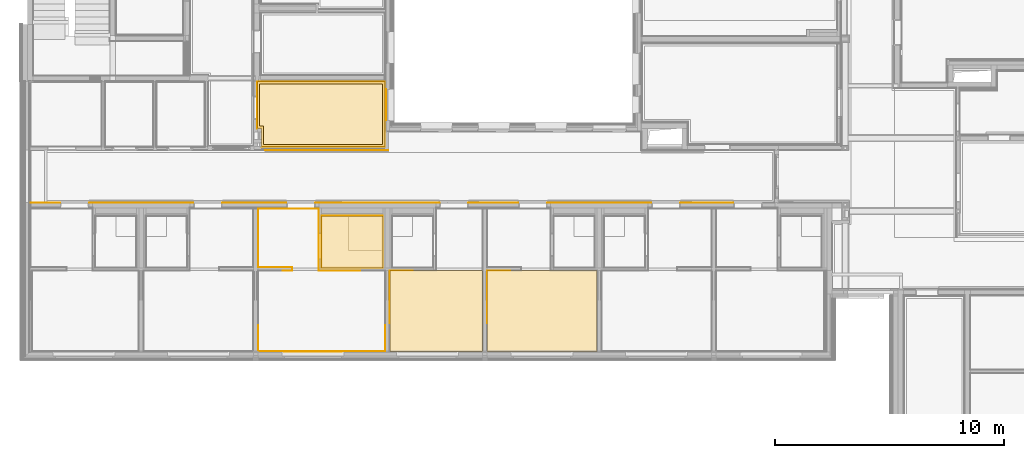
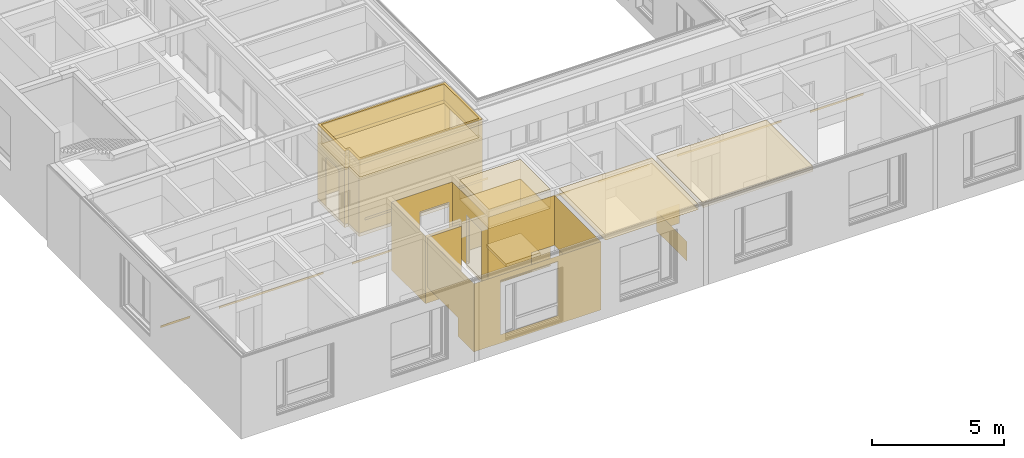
# One storey, part 155 of 222: 30 coverings.
"""IFC4 building model written with IfcOpenShell, lengths in metres."""

from ifc_helpers import new_model, entity, si_unit, converted_unit, derived_unit, frame, frame_2d, origin, origin_with_axes, place, context, subcontext, project, spatial, polyline, rectangle, outline, extrude, material, layer, layer_set, layer_usage, element, save


model = new_model("IFC4")

# Units and contexts
model_context = context("Model", 3, precision=1e-05, world=origin())
body_context = subcontext(model_context, "Body", "Model", "MODEL_VIEW")
ifc_project = project(units=[si_unit("LENGTHUNIT", "METRE"), si_unit("AREAUNIT", "SQUARE_METRE"), si_unit("VOLUMEUNIT", "CUBIC_METRE"), si_unit("MASSUNIT", "GRAM", prefix="KILO"), converted_unit("PLANEANGLEUNIT", "DEGREE", entity("IfcPlaneAngleMeasure", 0.0174532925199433), si_unit("PLANEANGLEUNIT", "RADIAN"), dimensions=[0, 0, 0, 0, 0, 0, 0]), derived_unit("THERMALTRANSMITTANCEUNIT", [(si_unit("POWERUNIT", "WATT"), 1), (si_unit("THERMODYNAMICTEMPERATUREUNIT", "KELVIN"), -1), (si_unit("LENGTHUNIT", "METRE"), -2)]), derived_unit("VOLUMETRICFLOWRATEUNIT", [(si_unit("LENGTHUNIT", "METRE"), 3), (converted_unit("TIMEUNIT", "hour", entity("IfcTimeMeasure", 3600.0), si_unit("TIMEUNIT", "SECOND"), dimensions=[0, 0, 1, 0, 0, 0, 0]), -1), (si_unit("LENGTHUNIT", "METRE"), -1)])], contexts=[model_context])

# Site, building, storey, space
site_placement = place(None, origin())
site = spatial("IfcSite", under=ifc_project, at=site_placement, Name="Psychiatrie Neubau Wunstorf", CompositionType="ELEMENT")
building_placement = place(site_placement, origin())
building = spatial("IfcBuilding", under=site, at=building_placement, Name="Neubau H2 Stationsgebäude", CompositionType="ELEMENT")
storey_placement = place(building_placement, frame((0.0, 0.0, 3.6)))
storey = spatial("IfcBuildingStorey", under=building, at=storey_placement, Name="H2 Ebene +1", CompositionType="ELEMENT", Elevation=3.6)
space_1_placement = place(storey_placement, frame((0.168999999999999, 4.33074963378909, 0.0)))
space_1 = spatial("IfcSpace", under=storey, at=space_1_placement, Name="WUN-H2-E01-073", CompositionType="ELEMENT")

# Coverings
ifc_material_1 = material(Name="97")
ifc_layer_1 = layer(ifc_material_1, 0.001)
ifc_layer_set_1 = layer_set([ifc_layer_1])
ifc_layer_usage_1 = layer_usage(ifc_layer_set_1, "AXIS3", "POSITIVE", 0.0)
covering_1_placement = place(space_1_placement, frame((10.2410000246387, 2.29425026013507, 0.8)))
element("IfcCovering", 1, at=covering_1_placement, inside=space_1, material=ifc_layer_usage_1, Name="Handlauf", PredefinedType="CLADDING", context=body_context, shape_type="SweptSolid", body=[
    extrude(rectangle(XDim=0.1, YDim=5.37899997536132, at=frame_2d((2.68949998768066, 0.05), x_axis=(0.0, 1.0))), frame((5.37899997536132, 0.0, 0.1), z_axis=(-1.69082488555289e-16, -1.0, 0.0), x_axis=(-1.0, 1.69082488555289e-16, 0.0)), (0.0, 0.0, 1.0), 0.001),
])
ifc_material_2 = material(Name="97")
ifc_layer_2 = layer(ifc_material_2, 0.001)
ifc_layer_set_2 = layer_set([ifc_layer_2])
ifc_layer_usage_2 = layer_usage(ifc_layer_set_2, "AXIS3", "POSITIVE", 0.0)
covering_2_placement = place(space_1_placement, frame((0.000999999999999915, 0.0, 0.8)))
element("IfcCovering", 2, at=covering_2_placement, inside=space_1, material=ifc_layer_usage_2, Name="Handlauf", PredefinedType="CLADDING", context=body_context, shape_type="SweptSolid", body=[
    extrude(rectangle(XDim=0.1, YDim=4.55, at=frame_2d((2.275, 0.05), x_axis=(0.0, 1.0))), frame((2.555, 0.0, 0.1), z_axis=(9.99444727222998e-16, 1.0, -1.81797936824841e-30), x_axis=(1.0, -9.99444727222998e-16, 0.0)), (0.0, 0.0, 1.0), 0.001),
    extrude(rectangle(XDim=0.1, YDim=1.295, at=frame_2d((-0.647500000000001, -0.05), x_axis=(2.27373675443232e-15, -1.0))), frame((1.295, 0.0, 0.0), z_axis=(1.40462502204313e-15, 1.0, -2.39531065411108e-30), x_axis=(1.0, -1.40462502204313e-15, 0.0)), (0.0, 0.0, 1.0), 0.001),
    extrude(rectangle(XDim=0.1, YDim=2.805, at=frame_2d((1.4025, 0.05), x_axis=(0.0, 1.0))), frame((8.365, 0.0, 0.1), z_axis=(9.72721606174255e-16, 1.0, 0.0), x_axis=(1.0, -9.72721606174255e-16, 0.0)), (0.0, 0.0, 1.0), 0.001),
    extrude(rectangle(XDim=0.100000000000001, YDim=5.425, at=frame_2d((2.7125, 0.0500000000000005), x_axis=(0.0, 1.0))), frame((12.43, 0.0, 0.100000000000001), z_axis=(1.08971715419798e-15, 1.0, -4.54747350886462e-15), x_axis=(1.0, -1.08971715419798e-15, 0.0)), (0.0, 0.0, 1.0), 0.001),
    extrude(rectangle(XDim=0.1, YDim=4.54999999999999, at=frame_2d((2.275, 0.05), x_axis=(0.0, 1.0))), frame((22.555, 0.0, 0.1), z_axis=(9.99444727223e-16, 1.0, 0.0), x_axis=(1.0, -9.99444727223e-16, 0.0)), (0.0, 0.0, 1.0), 0.001),
    extrude(rectangle(XDim=0.1, YDim=2.18, at=frame_2d((1.09, 0.05), x_axis=(0.0, 1.0))), frame((19.115, 0.0, 0.1), z_axis=(1.25159821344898e-15, 1.0, 0.0), x_axis=(1.0, -1.25159821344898e-15, 0.0)), (0.0, 0.0, 1.0), 0.001),
    extrude(rectangle(XDim=0.1, YDim=2.31999999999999, at=frame_2d((1.15999999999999, 0.05), x_axis=(0.0, 1.0))), frame((28.365, 0.0, 0.1), z_axis=(1.17607073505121e-15, 1.0, 0.0), x_axis=(1.0, -1.17607073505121e-15, 0.0)), (0.0, 0.0, 1.0), 0.001),
])

# Space
space_2_placement = place(storey_placement, frame((20.1, -2.16399999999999, 0.0)))
space_2 = spatial("IfcSpace", under=storey, at=space_2_placement, Name="WUN-H2-E01-021", CompositionType="ELEMENT")

# Coverings
ifc_material_3 = material(Name="84")
ifc_layer_3 = layer(ifc_material_3, 0.001)
ifc_layer_set_3 = layer_set([ifc_layer_3])
ifc_layer_usage_3 = layer_usage(ifc_layer_set_3, "AXIS3", "POSITIVE", 0.0)
covering_3_placement = place(space_2_placement, frame((0.0, 1.22274963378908, 0.1)))
element("IfcCovering", 3, at=covering_3_placement, inside=space_2, material=ifc_layer_usage_3, Name="Acrovyn", PredefinedType="CLADDING", context=body_context, shape_type="SweptSolid", body=[
    extrude(rectangle(XDim=1.0, YDim=0.9, at=frame_2d((0.5, -0.45), x_axis=(1.0, 0.0))), frame((1.0, 2.3, 0.0), z_axis=(0.0, -1.0, 0.0), x_axis=(-1.0, 0.0, 0.0)), (0.0, 0.0, 1.0), 0.001),
    extrude(rectangle(XDim=2.3, YDim=0.9, at=frame_2d((1.15, -0.45), x_axis=(1.0, 0.0))), frame((0.0, 2.3, 0.0), z_axis=(1.0, 0.0, 0.0), x_axis=(0.0, -1.0, 0.0)), (0.0, 0.0, 1.0), 0.001),
])
ifc_material_4 = material()
ifc_layer_4 = layer(ifc_material_4, 0.036)
ifc_layer_set_4 = layer_set([ifc_layer_4])
ifc_layer_usage_4 = layer_usage(ifc_layer_set_4, "AXIS3", "POSITIVE", 0.0)
covering_4_placement = place(space_2_placement, frame((0.0, 0.0, 3.55)))
element("IfcCovering", 4, at=covering_4_placement, inside=space_2, material=ifc_layer_usage_4, Name="Gipsfaserplatten 2-lagig (BSK)", PredefinedType="CEILING", context=body_context, shape_type="SweptSolid", body=[
    extrude(rectangle(XDim=3.5227496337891, YDim=4.8, at=frame_2d((-2.4, 1.76137481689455), x_axis=(0.0, 1.0))), frame((4.8, 3.5227496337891, 0.0), z_axis=(0.0, 0.0, -1.0), x_axis=(1.0, 0.0, 0.0)), (0.0, 0.0, 1.0), 0.036),
])
ifc_material_5 = material(Name="Installationshöhe")
ifc_layer_5 = layer(ifc_material_5, 0.114)
ifc_layer_set_5 = layer_set([ifc_layer_5])
ifc_layer_usage_5 = layer_usage(ifc_layer_set_5, "AXIS3", "POSITIVE", 0.0)
covering_5_placement = place(space_2_placement, frame((0.0, 0.0, 3.514)))
element("IfcCovering", 5, at=covering_5_placement, inside=space_2, material=ifc_layer_usage_5, Name="Gipsfaserplatten 2-lagig (BSK)", PredefinedType="CEILING", context=body_context, shape_type="SweptSolid", body=[
    extrude(rectangle(XDim=3.5227496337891, YDim=4.8, at=frame_2d((-2.4, 1.76137481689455), x_axis=(0.0, 1.0))), frame((4.8, 3.5227496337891, 0.0), z_axis=(0.0, 0.0, -1.0), x_axis=(1.0, 0.0, 0.0)), (0.0, 0.0, 1.0), 0.114),
])
ifc_material_6 = material(Name="A1")
ifc_layer_6 = layer(ifc_material_6, 0.1)
ifc_layer_set_6 = layer_set([ifc_layer_6])
ifc_layer_usage_6 = layer_usage(ifc_layer_set_6, "AXIS3", "POSITIVE", 0.0)
covering_6_placement = place(space_2_placement, frame((0.0, 0.0, 3.4)))
element("IfcCovering", 6, at=covering_6_placement, inside=space_2, material=ifc_layer_usage_6, Name="Gipsfaserplatten 2-lagig (BSK)", PredefinedType="CEILING", context=body_context, shape_type="SweptSolid", body=[
    extrude(rectangle(XDim=3.5227496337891, YDim=4.8, at=frame_2d((-2.4, 1.76137481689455), x_axis=(0.0, 1.0))), frame((4.8, 3.5227496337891, 0.0), z_axis=(0.0, 0.0, -1.0), x_axis=(1.0, 0.0, 0.0)), (0.0, 0.0, 1.0), 0.1),
])

# Space
space_3_placement = place(storey_placement, frame((15.85, -2.16399999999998, 0.0)))
space_3 = spatial("IfcSpace", under=storey, at=space_3_placement, Name="WUN-H2-E01-022", CompositionType="ELEMENT")

# Coverings
ifc_material_7 = material(Name="84")
ifc_layer_7 = layer(ifc_material_7, 0.001)
ifc_layer_set_7 = layer_set([ifc_layer_7])
ifc_layer_usage_7 = layer_usage(ifc_layer_set_7, "AXIS3", "POSITIVE", 0.0)
covering_7_placement = place(space_3_placement, frame((0.0, 1.22274963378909, 0.1)))
element("IfcCovering", 7, at=covering_7_placement, inside=space_3, material=ifc_layer_usage_7, Name="Acrovyn", PredefinedType="CLADDING", context=body_context, shape_type="SweptSolid", body=[
    extrude(rectangle(XDim=1.0, YDim=0.9, at=frame_2d((0.5, -0.45), x_axis=(1.0, 0.0))), frame((1.0, 2.3, 0.0), z_axis=(0.0, -1.0, 0.0), x_axis=(-1.0, 0.0, 0.0)), (0.0, 0.0, 1.0), 0.001),
    extrude(rectangle(XDim=2.3, YDim=0.9, at=frame_2d((1.15, -0.45), x_axis=(1.0, 0.0))), frame((0.0, 2.3, 0.0), z_axis=(1.0, 0.0, 0.0), x_axis=(0.0, -1.0, 0.0)), (0.0, 0.0, 1.0), 0.001),
])
ifc_material_8 = material()
ifc_layer_8 = layer(ifc_material_8, 0.036)
ifc_layer_set_8 = layer_set([ifc_layer_8])
ifc_layer_usage_8 = layer_usage(ifc_layer_set_8, "AXIS3", "POSITIVE", 0.0)
covering_8_placement = place(space_3_placement, frame((0.0, 0.0, 3.55)))
element("IfcCovering", 8, at=covering_8_placement, inside=space_3, material=ifc_layer_usage_8, Name="Gipsfaserplatten 2-lagig (BSK)", PredefinedType="CEILING", context=body_context, shape_type="SweptSolid", body=[
    extrude(rectangle(XDim=3.52274963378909, YDim=4.04999999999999, at=frame_2d((2.025, -1.76137481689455), x_axis=(0.0, -1.0))), frame((0.0, 0.0, 0.0), z_axis=(0.0, 0.0, -1.0), x_axis=(1.0, 0.0, 0.0)), (0.0, 0.0, 1.0), 0.036),
])
ifc_material_9 = material(Name="Installationshöhe")
ifc_layer_9 = layer(ifc_material_9, 0.114)
ifc_layer_set_9 = layer_set([ifc_layer_9])
ifc_layer_usage_9 = layer_usage(ifc_layer_set_9, "AXIS3", "POSITIVE", 0.0)
covering_9_placement = place(space_3_placement, frame((0.0, 0.0, 3.514)))
element("IfcCovering", 9, at=covering_9_placement, inside=space_3, material=ifc_layer_usage_9, Name="Gipsfaserplatten 2-lagig (BSK)", PredefinedType="CEILING", context=body_context, shape_type="SweptSolid", body=[
    extrude(rectangle(XDim=3.52274963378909, YDim=4.04999999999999, at=frame_2d((2.025, -1.76137481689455), x_axis=(0.0, -1.0))), frame((0.0, 0.0, 0.0), z_axis=(0.0, 0.0, -1.0), x_axis=(1.0, 0.0, 0.0)), (0.0, 0.0, 1.0), 0.114),
])
ifc_material_10 = material(Name="A1")
ifc_layer_10 = layer(ifc_material_10, 0.1)
ifc_layer_set_10 = layer_set([ifc_layer_10])
ifc_layer_usage_10 = layer_usage(ifc_layer_set_10, "AXIS3", "POSITIVE", 0.0)
covering_10_placement = place(space_3_placement, frame((0.0, 0.0, 3.4)))
element("IfcCovering", 10, at=covering_10_placement, inside=space_3, material=ifc_layer_usage_10, Name="Gipsfaserplatten 2-lagig (BSK)", PredefinedType="CEILING", context=body_context, shape_type="SweptSolid", body=[
    extrude(rectangle(XDim=3.52274963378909, YDim=4.04999999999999, at=frame_2d((2.025, -1.76137481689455), x_axis=(0.0, -1.0))), frame((0.0, 0.0, 0.0), z_axis=(0.0, 0.0, -1.0), x_axis=(1.0, 0.0, 0.0)), (0.0, 0.0, 1.0), 0.1),
])
ifc_material_11 = material(Name="D1")
ifc_layer_11 = layer(ifc_material_11, 0.001)
ifc_layer_set_11 = layer_set([ifc_layer_11])
ifc_layer_usage_11 = layer_usage(ifc_layer_set_11, "AXIS3", "POSITIVE", 0.0)
covering_11_placement = place(space_3_placement, frame((0.0, 0.0, 3.3)))
element("IfcCovering", 11, at=covering_11_placement, inside=space_3, material=ifc_layer_usage_11, Name="Gipsfaserplatten 2-lagig (BSK)", PredefinedType="CEILING", context=body_context, shape_type="SweptSolid", body=[
    extrude(rectangle(XDim=3.52274963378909, YDim=4.04999999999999, at=frame_2d((2.025, -1.76137481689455), x_axis=(0.0, -1.0))), frame((0.0, 0.0, 0.0), z_axis=(0.0, 0.0, -1.0), x_axis=(1.0, 0.0, 0.0)), (0.0, 0.0, 1.0), 0.001),
])

# Space
space_4_placement = place(storey_placement, frame((10.1, -2.16399999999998, 0.0)))
space_4 = spatial("IfcSpace", under=storey, at=space_4_placement, Name="WUN-H2-E01-023", CompositionType="ELEMENT")

# Covering
ifc_material_12 = material(Name="49")
ifc_layer_12 = layer(ifc_material_12, 0.001)
ifc_layer_set_12 = layer_set([ifc_layer_12])
ifc_layer_usage_12 = layer_usage(ifc_layer_set_12, "AXIS3", "POSITIVE", 0.0)
covering_12_placement = place(space_4_placement, frame((0.0, -0.0249999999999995, 0.15)))
element("IfcCovering", 12, at=covering_12_placement, inside=space_4, material=ifc_layer_usage_12, PredefinedType="CLADDING", context=body_context, shape_type="SweptSolid", body=[
    extrude(rectangle(XDim=1.50000000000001, YDim=3.15, at=frame_2d((0.750000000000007, -1.575), x_axis=(1.0, 0.0))), frame((0.0, 3.69774963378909, 0.0), z_axis=(0.0, 1.0, 0.0), x_axis=(1.0, 0.0, 0.0)), (0.0, 0.0, 1.0), 0.001),
    extrude(rectangle(XDim=0.15, YDim=3.15, at=frame_2d((0.075, -1.575), x_axis=(1.0, 0.0))), frame((1.50000000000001, 3.69774963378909, 0.0), z_axis=(1.0, 0.0, 0.0), x_axis=(0.0, -1.0, 0.0)), (0.0, 0.0, 1.0), 0.001),
    extrude(outline(polyline([(0.0, 3.15), (0.500000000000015, 3.15), (0.500000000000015, 2.3), (1.50000000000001, 2.3), (1.50000000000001, 0.0), (0.0, 0.0), (0.0, 3.15)])), frame((1.50000000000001, 3.54774963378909, 3.15), z_axis=(0.0, -1.0, 0.0), x_axis=(-1.0, 0.0, 0.0)), (0.0, 0.0, 1.0), 0.001),
    extrude(outline(polyline([(2.3, 3.15), (3.52274963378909, 3.15), (3.52274963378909, 0.0), (0.0, 0.0), (0.0, 2.3), (2.3, 2.3), (2.3, 3.15)])), frame((0.0, 3.54774963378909, 3.15), z_axis=(1.0, 0.0, 0.0), x_axis=(0.0, -1.0, 0.0)), (0.0, 0.0, 1.0), 0.001),
    extrude(outline(polyline([(0.0, 3.15), (5.55, 3.15), (5.55, 0.0), (0.0, 0.0), (0.0, 3.15)]), holes=[polyline([(3.65, 2.75), (1.14999999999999, 2.75), (1.14999999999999, 0.25), (3.65, 0.25), (3.65, 2.75)])]), frame((0.0, 0.0249999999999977, 3.15), z_axis=(4.79034394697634e-17, 1.0, 0.0), x_axis=(1.0, -4.79034394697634e-17, 0.0)), (0.0, 0.0, 1.0), 0.001),
    extrude(outline(polyline([(0.0, 3.15), (1.2227496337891, 3.15), (1.2227496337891, 2.3), (3.52274963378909, 2.3), (3.52274963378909, 0.0), (0.0, 0.0), (0.0, 3.15)])), frame((5.55, 0.0249999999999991, 3.15), z_axis=(-1.0, -1.23552388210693e-15, -1.21832263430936e-15), x_axis=(-1.23552388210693e-15, 1.0, 0.0)), (0.0, 0.0, 1.0), 0.001),
    extrude(outline(polyline([(0.999999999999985, 3.15), (2.9, 3.15), (2.9, 0.0), (0.0, 0.0), (0.0, 2.3), (0.999999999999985, 2.3), (0.999999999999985, 3.15)])), frame((5.55, 3.54774963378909, 3.15), z_axis=(4.89875691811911e-16, -1.0, -5.76324343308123e-16), x_axis=(-1.0, -4.89875691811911e-16, 0.0)), (0.0, 0.0, 1.0), 0.001),
    extrude(outline(polyline([(0.0, 3.15), (0.499999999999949, 3.15), (0.499999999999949, 0.89), (1.63499999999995, 0.89), (1.63499999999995, 3.15), (2.69999999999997, 3.15), (2.69999999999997, 0.0), (0.0, 0.0), (0.0, 3.15)])), frame((2.65, 3.54774963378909, 3.15), z_axis=(-1.0, 0.0, 0.0), x_axis=(0.0, 1.0, 0.0)), (0.0, 0.0, 1.0), 0.001),
    extrude(outline(polyline([(0.0, 3.15), (0.15, 3.15), (0.15, 0.89), (1.41, 0.89), (1.41, 3.15), (2.65, 3.15), (2.65, 0.0), (0.0, 0.0), (0.0, 3.15)])), frame((2.65, 6.24774963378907, 3.15), z_axis=(-1.62427735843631e-16, -1.0, 3.92413910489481e-16), x_axis=(-1.0, 1.62427735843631e-16, 0.0)), (0.0, 0.0, 1.0), 0.001),
    extrude(rectangle(XDim=2.54999999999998, YDim=3.15, at=frame_2d((1.27499999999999, -1.575), x_axis=(1.0, 0.0))), frame((0.0, 6.24774963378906, 0.0), z_axis=(1.0, 0.0, 0.0), x_axis=(0.0, -1.0, 0.0)), (0.0, 0.0, 1.0), 0.001),
    extrude(rectangle(XDim=0.0249999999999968, YDim=2.5, at=frame_2d((0.0124999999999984, -1.25), x_axis=(1.0, 0.0))), frame((1.14999999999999, 0.0249999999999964, 0.4), z_axis=(1.0, 0.0, 0.0), x_axis=(0.0, -1.0, 0.0)), (0.0, 0.0, 1.0), 0.001),
    extrude(rectangle(XDim=2.5, YDim=0.0249999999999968, at=frame_2d((-1.25, 0.0124999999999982), x_axis=(-1.0, -1.81898940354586e-16))), frame((3.65, 0.0249999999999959, 2.9), z_axis=(0.0, 0.0, -1.0), x_axis=(1.0, 0.0, 0.0)), (0.0, 0.0, 1.0), 0.001),
    extrude(rectangle(XDim=2.5, YDim=0.0249999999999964, at=frame_2d((-0.0124999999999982, -1.25), x_axis=(0.0, -1.0))), frame((3.65, 0.0249999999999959, 0.4), z_axis=(-1.0, 0.0, 0.0), x_axis=(0.0, 1.0, 0.0)), (0.0, 0.0, 1.0), 0.001),
])

# Space
space_5_placement = place(storey_placement, frame((12.875, 1.48374963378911, 0.0)))
space_5 = spatial("IfcSpace", under=storey, at=space_5_placement, Name="WUN-H2-E01-023a", CompositionType="ELEMENT")

# Coverings
ifc_material_13 = material(Name="Fl2")
ifc_layer_13 = layer(ifc_material_13, 0.15)
ifc_layer_set_13 = layer_set([ifc_layer_13])
ifc_layer_usage_13 = layer_usage(ifc_layer_set_13, "AXIS3", "POSITIVE", 0.0)
covering_13_placement = place(space_5_placement, frame((1.175, 0.764999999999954, 0.0)))
element("IfcCovering", 13, at=covering_13_placement, inside=space_5, material=ifc_layer_usage_13, Name="Fliesen Mosaik", PredefinedType="FLOORING", context=body_context, shape_type="SweptSolid", body=[
    extrude(rectangle(XDim=1.5, YDim=1.5, at=frame_2d((-0.75, -0.75), x_axis=(-1.0, 0.0))), frame((1.5, 1.5, 0.0), z_axis=(0.0, 0.0, 1.0), x_axis=(1.0, 0.0, 0.0)), (0.0, 0.0, 1.0), 0.15),
])
ifc_material_14 = material(Name="Fl1")
ifc_layer_14 = layer(ifc_material_14, 0.15)
ifc_layer_set_14 = layer_set([ifc_layer_14])
ifc_layer_usage_14 = layer_usage(ifc_layer_set_14, "AXIS3", "POSITIVE", 0.0)
covering_14_placement = place(space_5_placement, frame((-0.125, 0.0, 0.0)))
element("IfcCovering", 14, at=covering_14_placement, inside=space_5, material=ifc_layer_usage_14, Name="Fliesen", PredefinedType="FLOORING", context=body_context, shape_type="SweptSolid", body=[
    extrude(rectangle(XDim=0.125, YDim=1.135, at=frame_2d((0.0625, 0.5675), x_axis=(1.0, 0.0))), frame((0.0, 0.374999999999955, 0.0), z_axis=(0.0, 0.0, 1.0), x_axis=(1.0, 0.0, 0.0)), (0.0, 0.0, 1.0), 0.15),
    extrude(outline(polyline([(0.0, 0.0), (2.675, 0.0), (2.675, 0.764999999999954), (1.175, 0.764999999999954), (1.175, 2.26499999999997), (0.0, 2.26499999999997), (0.0, 0.0)])), frame((0.125, 0.0, 0.0), z_axis=(0.0, 0.0, 1.0), x_axis=(1.0, 0.0, 0.0)), (0.0, 0.0, 1.0), 0.15),
])
ifc_material_15 = material()
ifc_layer_15 = layer(ifc_material_15, 0.036)
ifc_layer_set_15 = layer_set([ifc_layer_15])
ifc_layer_usage_15 = layer_usage(ifc_layer_set_15, "AXIS3", "POSITIVE", 0.0)
covering_15_placement = place(space_5_placement, frame((0.0, 0.0, 3.55)))
element("IfcCovering", 15, at=covering_15_placement, inside=space_5, material=ifc_layer_usage_15, Name="Gipsfaserplatten 2-lagig (BSK)", PredefinedType="CEILING", context=body_context, shape_type="SweptSolid", body=[
    extrude(rectangle(XDim=2.26499999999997, YDim=2.675, at=frame_2d((-1.3375, 1.13249999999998), x_axis=(0.0, 1.0))), frame((2.675, 2.26499999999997, 0.0), z_axis=(0.0, 0.0, -1.0), x_axis=(1.0, 0.0, 0.0)), (0.0, 0.0, 1.0), 0.036),
])
ifc_material_16 = material(Name="Installationshöhe")
ifc_layer_16 = layer(ifc_material_16, 0.764)
ifc_layer_set_16 = layer_set([ifc_layer_16])
ifc_layer_usage_16 = layer_usage(ifc_layer_set_16, "AXIS3", "POSITIVE", 0.0)
covering_16_placement = place(space_5_placement, frame((0.0, 0.0, 3.514)))
element("IfcCovering", 16, at=covering_16_placement, inside=space_5, material=ifc_layer_usage_16, Name="Gipsfaserplatten 2-lagig (BSK)", PredefinedType="CEILING", context=body_context, shape_type="SweptSolid", body=[
    extrude(rectangle(XDim=2.26499999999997, YDim=2.675, at=frame_2d((-1.3375, 1.13249999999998), x_axis=(0.0, 1.0))), frame((2.675, 2.26499999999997, 0.0), z_axis=(0.0, 0.0, -1.0), x_axis=(1.0, 0.0, 0.0)), (0.0, 0.0, 1.0), 0.764),
])
ifc_material_17 = material(Name="B")
ifc_layer_17 = layer(ifc_material_17, 0.1)
ifc_layer_set_17 = layer_set([ifc_layer_17])
ifc_layer_usage_17 = layer_usage(ifc_layer_set_17, "AXIS3", "POSITIVE", 0.0)
covering_17_placement = place(space_5_placement, frame((0.0, 0.0, 2.75)))
element("IfcCovering", 17, at=covering_17_placement, inside=space_5, material=ifc_layer_usage_17, Name="Gipskarton, imprägniert", PredefinedType="CEILING", context=body_context, shape_type="SweptSolid", body=[
    extrude(rectangle(XDim=2.26499999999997, YDim=2.675, at=frame_2d((-1.3375, 1.13249999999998), x_axis=(0.0, 1.0))), frame((2.675, 2.26499999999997, 0.0), z_axis=(0.0, 0.0, -1.0), x_axis=(1.0, 0.0, 0.0)), (0.0, 0.0, 1.0), 0.1),
])
ifc_material_18 = material(Name="D1")
ifc_layer_18 = layer(ifc_material_18, 0.001)
ifc_layer_set_18 = layer_set([ifc_layer_18])
ifc_layer_usage_18 = layer_usage(ifc_layer_set_18, "AXIS3", "POSITIVE", 0.0)
covering_18_placement = place(space_5_placement, frame((0.0, 0.0, 2.65)))
element("IfcCovering", 18, at=covering_18_placement, inside=space_5, material=ifc_layer_usage_18, Name="Gipsfaserplatten 2-lagig (BSK)", PredefinedType="CEILING", context=body_context, shape_type="SweptSolid", body=[
    extrude(rectangle(XDim=2.26499999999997, YDim=2.675, at=frame_2d((-1.3375, 1.13249999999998), x_axis=(0.0, 1.0))), frame((2.675, 2.26499999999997, 0.0), z_axis=(0.0, 0.0, -1.0), x_axis=(1.0, 0.0, 0.0)), (0.0, 0.0, 1.0), 0.001),
])
ifc_material_19 = material(Name="50")
ifc_layer_19 = layer(ifc_material_19, 0.001)
ifc_layer_set_19 = layer_set([ifc_layer_19])
ifc_layer_usage_19 = layer_usage(ifc_layer_set_19, "AXIS3", "POSITIVE", 0.0)
covering_19_placement = place(space_5_placement, frame((0.0, 0.0, 0.15)))
element("IfcCovering", 19, at=covering_19_placement, inside=space_5, material=ifc_layer_usage_19, PredefinedType="CLADDING", context=body_context, shape_type="SweptSolid", body=[
    extrude(outline(polyline([(0.0, 2.5), (0.0149999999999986, 2.5), (0.0149999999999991, 0.24), (1.15, 0.24), (1.15, 2.5), (1.52499999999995, 2.5), (1.52499999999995, 0.0), (0.0, 0.0), (0.0, 2.5)])), frame((0.0, 1.52499999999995, 2.5), z_axis=(1.0, 0.0, 0.0), x_axis=(0.0, -1.0, 0.0)), (0.0, 0.0, 1.0), 0.001),
    extrude(rectangle(XDim=1.475, YDim=2.5, at=frame_2d((0.7375, -1.25), x_axis=(1.0, 0.0))), frame((0.0, 0.0, 0.0), z_axis=(0.0, 1.0, 0.0), x_axis=(1.0, 0.0, 0.0)), (0.0, 0.0, 1.0), 0.001),
])
ifc_material_20 = material(Name="68")
ifc_layer_20 = layer(ifc_material_20, 0.01)
ifc_layer_set_20 = layer_set([ifc_layer_20])
ifc_layer_usage_20 = layer_usage(ifc_layer_set_20, "AXIS3", "POSITIVE", 0.0)
covering_20_placement = place(space_5_placement, frame((0.0, 0.0, 0.15)))
element("IfcCovering", 20, at=covering_20_placement, inside=space_5, material=ifc_layer_usage_20, Name="a-sh Wandbelag", PredefinedType="CLADDING", context=body_context, shape_type="SweptSolid", body=[
    extrude(rectangle(XDim=1.2, YDim=2.5, at=frame_2d((0.6, -1.25), x_axis=(1.0, 0.0))), frame((1.475, 0.0, 0.0), z_axis=(0.0, 1.0, 0.0), x_axis=(1.0, 0.0, 0.0)), (0.0, 0.0, 1.0), 0.01),
    extrude(rectangle(XDim=2.675, YDim=2.5, at=frame_2d((1.3375, -1.25), x_axis=(1.0, 0.0))), frame((2.675, 2.26499999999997, 0.0), z_axis=(0.0, -1.0, 0.0), x_axis=(-1.0, 0.0, 0.0)), (0.0, 0.0, 1.0), 0.01),
    extrude(rectangle(XDim=0.740000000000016, YDim=2.5, at=frame_2d((0.370000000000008, -1.25), x_axis=(1.0, 0.0))), frame((0.0, 2.26499999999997, 0.0), z_axis=(1.0, 0.0, 0.0), x_axis=(0.0, -1.0, 0.0)), (0.0, 0.0, 1.0), 0.01),
    extrude(rectangle(XDim=2.26499999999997, YDim=2.5, at=frame_2d((1.13249999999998, -1.25), x_axis=(1.0, 0.0))), frame((2.675, 0.0, 0.0), z_axis=(-1.0, 0.0, 0.0), x_axis=(0.0, 1.0, 0.0)), (0.0, 0.0, 1.0), 0.01),
])

# Space
space_6_placement = place(storey_placement, frame((10.0675000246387, 6.77499989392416, 0.0)))
space_6 = spatial("IfcSpace", under=storey, at=space_6_placement, Name="WUN-H2-E01-037", CompositionType="ELEMENT")

# Coverings
ifc_material_21 = material()
ifc_layer_21 = layer(ifc_material_21, 0.036)
ifc_layer_set_21 = layer_set([ifc_layer_21])
ifc_layer_usage_21 = layer_usage(ifc_layer_set_21, "AXIS3", "POSITIVE", 0.0)
covering_21_placement = place(space_6_placement, frame((0.0, 0.0, 3.55)))
element("IfcCovering", 21, at=covering_21_placement, inside=space_6, material=ifc_layer_usage_21, Name="Gipsfaserplatten 2-lagig (BSK)", PredefinedType="CEILING", context=body_context, shape_type="SweptSolid", body=[
    extrude(outline(polyline([(0.175000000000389, 2.0455000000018), (0.0, 2.0455000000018), (0.0, 0.0), (5.57149997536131, 0.0), (5.57149997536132, 2.83549999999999), (0.175000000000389, 2.83549998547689), (0.175000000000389, 2.0455000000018)]), holes=[polyline([(0.275000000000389, 2.73549999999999), (5.47149997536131, 2.7355), (5.47149997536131, 0.100000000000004), (0.1, 0.1), (0.1, 1.9455000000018), (0.275000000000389, 1.9455000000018), (0.275000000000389, 2.73549999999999)])]), frame((0.0, 2.83549999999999, 0.0), z_axis=(0.0, 0.0, -1.0), x_axis=(1.0, 0.0, 0.0)), (0.0, 0.0, 1.0), 0.036),
])
ifc_material_22 = material(Name="Installationshöhe")
ifc_layer_22 = layer(ifc_material_22, 0.714)
ifc_layer_set_22 = layer_set([ifc_layer_22])
ifc_layer_usage_22 = layer_usage(ifc_layer_set_22, "AXIS3", "POSITIVE", 0.0)
covering_22_placement = place(space_6_placement, frame((0.0, 0.0, 3.514)))
element("IfcCovering", 22, at=covering_22_placement, inside=space_6, material=ifc_layer_usage_22, Name="Gipsfaserplatten 2-lagig (BSK)", PredefinedType="CEILING", context=body_context, shape_type="SweptSolid", body=[
    extrude(outline(polyline([(0.175000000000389, 2.0455000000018), (0.0, 2.0455000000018), (0.0, 0.0), (5.57149997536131, 0.0), (5.57149997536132, 2.83549999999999), (0.175000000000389, 2.83549998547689), (0.175000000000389, 2.0455000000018)]), holes=[polyline([(0.275000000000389, 2.73549999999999), (5.47149997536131, 2.7355), (5.47149997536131, 0.100000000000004), (0.1, 0.1), (0.1, 1.9455000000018), (0.275000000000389, 1.9455000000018), (0.275000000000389, 2.73549999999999)])]), frame((0.0, 2.83549999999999, 0.0), z_axis=(0.0, 0.0, -1.0), x_axis=(1.0, 0.0, 0.0)), (0.0, 0.0, 1.0), 0.714),
])
ifc_material_23 = material(Name="A1")
ifc_layer_23 = layer(ifc_material_23, 0.15)
ifc_layer_set_23 = layer_set([ifc_layer_23])
ifc_layer_usage_23 = layer_usage(ifc_layer_set_23, "AXIS3", "POSITIVE", 0.0)
covering_23_placement = place(space_6_placement, frame((0.0, 0.0, 2.8)))
element("IfcCovering", 23, at=covering_23_placement, inside=space_6, material=ifc_layer_usage_23, Name="Gipsfaserplatten 2-lagig (BSK)", PredefinedType="CEILING", context=body_context, shape_type="SweptSolid", body=[
    extrude(outline(polyline([(0.175000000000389, 2.0455000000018), (0.0, 2.0455000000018), (0.0, 0.0), (5.57149997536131, 0.0), (5.57149997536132, 2.83549999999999), (0.175000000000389, 2.83549998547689), (0.175000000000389, 2.0455000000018)]), holes=[polyline([(0.275000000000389, 2.73549999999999), (5.47149997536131, 2.7355), (5.47149997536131, 0.100000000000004), (0.1, 0.1), (0.1, 1.9455000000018), (0.275000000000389, 1.9455000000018), (0.275000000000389, 2.73549999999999)])]), frame((0.0, 2.83549999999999, 0.0), z_axis=(0.0, 0.0, -1.0), x_axis=(1.0, 0.0, 0.0)), (0.0, 0.0, 1.0), 0.15),
])
ifc_material_24 = material(Name="D1")
ifc_layer_24 = layer(ifc_material_24, 0.001)
ifc_layer_set_24 = layer_set([ifc_layer_24])
ifc_layer_usage_24 = layer_usage(ifc_layer_set_24, "AXIS3", "POSITIVE", 0.0)
covering_24_placement = place(space_6_placement, frame((0.0, 0.0, 2.65)))
element("IfcCovering", 24, at=covering_24_placement, inside=space_6, material=ifc_layer_usage_24, Name="Gipsfaserplatten 2-lagig (BSK)", PredefinedType="CEILING", context=body_context, shape_type="SweptSolid", body=[
    extrude(outline(polyline([(0.175000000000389, 2.0455000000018), (0.0, 2.0455000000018), (0.0, 0.0), (5.57149997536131, 0.0), (5.57149997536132, 2.83549999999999), (0.175000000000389, 2.83549998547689), (0.175000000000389, 2.0455000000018)]), holes=[polyline([(0.275000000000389, 2.73549999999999), (5.47149997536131, 2.7355), (5.47149997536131, 0.100000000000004), (0.1, 0.1), (0.1, 1.9455000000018), (0.275000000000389, 1.9455000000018), (0.275000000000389, 2.73549999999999)])]), frame((0.0, 2.83549999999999, 0.0), z_axis=(0.0, 0.0, -1.0), x_axis=(1.0, 0.0, 0.0)), (0.0, 0.0, 1.0), 0.001),
])
ifc_material_25 = material()
ifc_layer_25 = layer(ifc_material_25, 0.036)
ifc_layer_set_25 = layer_set([ifc_layer_25])
ifc_layer_usage_25 = layer_usage(ifc_layer_set_25, "AXIS3", "POSITIVE", 0.0)
covering_25_placement = place(space_6_placement, frame((0.1, 0.0999999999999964, 3.55)))
element("IfcCovering", 25, at=covering_25_placement, inside=space_6, material=ifc_layer_usage_25, Name="Gipsfaserplatten 2-lagig (BSK)", PredefinedType="CEILING", context=body_context, shape_type="SweptSolid", body=[
    extrude(outline(polyline([(5.37149997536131, 2.6355), (0.175000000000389, 2.63549999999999), (0.175000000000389, 1.8455000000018), (0.0, 1.8455000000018), (0.0, 0.0), (5.37149997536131, 0.0), (5.37149997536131, 2.6355)])), frame((0.0, 2.6355, 0.0), z_axis=(0.0, 0.0, -1.0), x_axis=(1.0, 0.0, 0.0)), (0.0, 0.0, 1.0), 0.036),
])
ifc_material_26 = material(Name="Installationshöhe")
ifc_layer_26 = layer(ifc_material_26, 0.714)
ifc_layer_set_26 = layer_set([ifc_layer_26])
ifc_layer_usage_26 = layer_usage(ifc_layer_set_26, "AXIS3", "POSITIVE", 0.0)
covering_26_placement = place(space_6_placement, frame((0.1, 0.0999999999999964, 3.514)))
element("IfcCovering", 26, at=covering_26_placement, inside=space_6, material=ifc_layer_usage_26, Name="Gipsfaserplatten 2-lagig (BSK)", PredefinedType="CEILING", context=body_context, shape_type="SweptSolid", body=[
    extrude(outline(polyline([(5.37149997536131, 2.6355), (0.175000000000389, 2.63549999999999), (0.175000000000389, 1.8455000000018), (0.0, 1.8455000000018), (0.0, 0.0), (5.37149997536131, 0.0), (5.37149997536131, 2.6355)])), frame((0.0, 2.6355, 0.0), z_axis=(0.0, 0.0, -1.0), x_axis=(1.0, 0.0, 0.0)), (0.0, 0.0, 1.0), 0.714),
])
ifc_material_27 = material(Name="Aa")
ifc_layer_27 = layer(ifc_material_27, 0.15)
ifc_layer_set_27 = layer_set([ifc_layer_27])
ifc_layer_usage_27 = layer_usage(ifc_layer_set_27, "AXIS3", "POSITIVE", 0.0)
covering_27_placement = place(space_6_placement, frame((0.1, 0.0999999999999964, 2.8)))
element("IfcCovering", 27, at=covering_27_placement, inside=space_6, material=ifc_layer_usage_27, Name="Gipsfaserplatten 2-lagig (BSK)", PredefinedType="CEILING", context=body_context, shape_type="SweptSolid", body=[
    extrude(outline(polyline([(5.37149997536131, 2.6355), (0.175000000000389, 2.63549999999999), (0.175000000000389, 1.8455000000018), (0.0, 1.8455000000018), (0.0, 0.0), (5.37149997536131, 0.0), (5.37149997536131, 2.6355)])), frame((0.0, 2.6355, 0.0), z_axis=(0.0, 0.0, -1.0), x_axis=(1.0, 0.0, 0.0)), (0.0, 0.0, 1.0), 0.15),
])
ifc_material_28 = material(Name="D1")
ifc_layer_28 = layer(ifc_material_28, 0.001)
ifc_layer_set_28 = layer_set([ifc_layer_28])
ifc_layer_usage_28 = layer_usage(ifc_layer_set_28, "AXIS3", "POSITIVE", 0.0)
covering_28_placement = place(space_6_placement, frame((0.1, 0.0999999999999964, 2.65)))
element("IfcCovering", 28, at=covering_28_placement, inside=space_6, material=ifc_layer_usage_28, Name="Gipsfaserplatten 2-lagig (BSK)", PredefinedType="CEILING", context=body_context, shape_type="SweptSolid", body=[
    extrude(outline(polyline([(5.37149997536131, 2.6355), (0.175000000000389, 2.63549999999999), (0.175000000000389, 1.8455000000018), (0.0, 1.8455000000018), (0.0, 0.0), (5.37149997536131, 0.0), (5.37149997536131, 2.6355)])), frame((0.0, 2.6355, 0.0), z_axis=(0.0, 0.0, -1.0), x_axis=(1.0, 0.0, 0.0)), (0.0, 0.0, 1.0), 0.001),
])
ifc_material_29 = material(Name="Ku1")
ifc_layer_29 = layer(ifc_material_29, 0.15)
ifc_layer_set_29 = layer_set([ifc_layer_29])
ifc_layer_usage_29 = layer_usage(ifc_layer_set_29, "AXIS3", "POSITIVE", 0.0)
covering_29_placement = place(space_6_placement, origin())
element("IfcCovering", 29, at=covering_29_placement, inside=space_6, material=ifc_layer_usage_29, Name="PVC Bahnenware Holzoptik", PredefinedType="FLOORING", context=body_context, shape_type="SweptSolid", body=[
    extrude(outline(polyline([(0.0, 0.789999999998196), (0.175000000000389, 0.789999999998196), (0.175000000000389, 0.0), (5.57149997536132, 0.0), (5.57149997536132, 2.8355), (0.0, 2.8355), (0.0, 0.789999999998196)])), origin_with_axes(), (0.0, 0.0, 1.0), 0.15),
])
ifc_material_30 = material(Name="49")
ifc_layer_30 = layer(ifc_material_30, 0.001)
ifc_layer_set_30 = layer_set([ifc_layer_30])
ifc_layer_usage_30 = layer_usage(ifc_layer_set_30, "AXIS3", "POSITIVE", 0.0)
covering_30_placement = place(space_6_placement, frame((0.0, 0.0, 0.15)))
element("IfcCovering", 30, at=covering_30_placement, inside=space_6, material=ifc_layer_usage_30, PredefinedType="CLADDING", context=body_context, shape_type="SweptSolid", body=[
    extrude(rectangle(XDim=5.57149997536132, YDim=3.15, at=frame_2d((2.78574998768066, -1.575), x_axis=(1.0, 0.0))), frame((5.57149997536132, 2.8355, 0.0), z_axis=(0.0, -1.0, 0.0), x_axis=(-1.0, 0.0, 0.0)), (0.0, 0.0, 1.0), 0.001),
    extrude(outline(polyline([(0.0, 3.15), (0.635500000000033, 3.15), (0.635500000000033, 0.89), (1.64550000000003, 0.89), (1.64550000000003, 3.15), (2.0455000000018, 3.15), (2.0455000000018, 0.0), (0.0, 0.0), (0.0, 3.15)])), frame((0.0, 2.8355, 3.15), z_axis=(1.0, 1.60773908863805e-13, 2.21355605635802e-14), x_axis=(1.60773908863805e-13, -1.0, 0.0)), (0.0, 0.0, 1.0), 0.001),
    extrude(rectangle(XDim=0.175, YDim=3.15, at=frame_2d((0.0875, -1.575), x_axis=(1.0, 0.0))), frame((0.0, 0.789999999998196, 0.0), z_axis=(0.0, 1.0, 0.0), x_axis=(1.0, 0.0, 0.0)), (0.0, 0.0, 1.0), 0.001),
    extrude(rectangle(XDim=0.789999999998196, YDim=3.15, at=frame_2d((0.394999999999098, -1.575), x_axis=(1.0, 0.0))), frame((0.175000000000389, 0.789999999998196, 0.0), z_axis=(1.0, 0.0, 0.0), x_axis=(0.0, -1.0, 0.0)), (0.0, 0.0, 1.0), 0.001),
    extrude(rectangle(XDim=5.39649997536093, YDim=3.15, at=frame_2d((2.69824998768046, -1.575), x_axis=(1.0, 0.0))), frame((0.175000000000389, 0.0, 0.0), z_axis=(-6.74136722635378e-16, 1.0, 0.0), x_axis=(1.0, 6.74136722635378e-16, 0.0)), (0.0, 0.0, 1.0), 0.001),
    extrude(outline(polyline([(0.0, 3.15), (2.8355, 3.15), (2.8355, 0.0), (0.0, 0.0), (0.0, 3.15)]), holes=[polyline([(2.50000010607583, 2.75), (1.15000010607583, 2.75), (1.15000010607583, 0.635), (2.50000010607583, 0.635), (2.50000010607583, 2.75)])]), frame((5.57149997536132, 0.0, 3.15), z_axis=(-1.0, 0.0, 0.0), x_axis=(0.0, 1.0, 0.0)), (0.0, 0.0, 1.0), 0.001),
    extrude(rectangle(XDim=0.0500000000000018, YDim=1.35, at=frame_2d((0.0250000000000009, -0.675), x_axis=(1.0, 0.0))), frame((5.57149997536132, 1.15000010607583, 2.515), z_axis=(0.0, 0.0, -1.0), x_axis=(1.0, 0.0, 0.0)), (0.0, 0.0, 1.0), 0.001),
    extrude(rectangle(XDim=0.0500000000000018, YDim=2.115, at=frame_2d((0.0250000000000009, -1.0575), x_axis=(1.0, 0.0))), frame((5.57149997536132, 1.15000010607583, 0.4), z_axis=(0.0, 1.0, 0.0), x_axis=(1.0, 0.0, 0.0)), (0.0, 0.0, 1.0), 0.001),
    extrude(rectangle(XDim=2.115, YDim=0.0500000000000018, at=frame_2d((-0.0250000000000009, -1.0575), x_axis=(0.0, -1.0))), frame((5.57149997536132, 2.50000010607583, 0.4), z_axis=(0.0, -1.0, 0.0), x_axis=(-1.0, 0.0, 0.0)), (0.0, 0.0, 1.0), 0.001),
])

save(model, "model.ifc")
